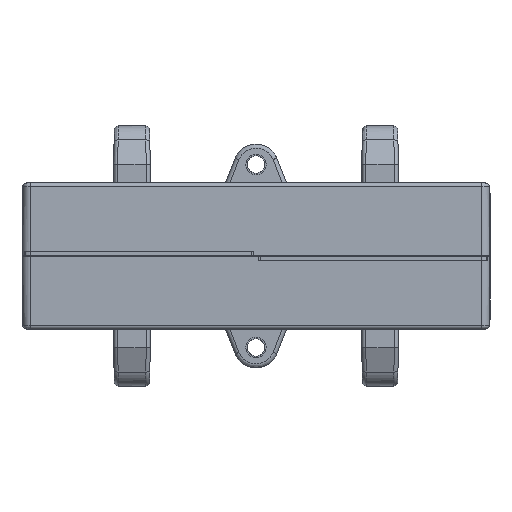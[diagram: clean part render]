
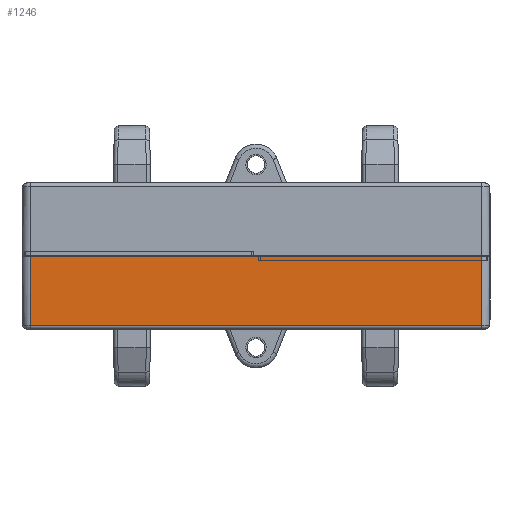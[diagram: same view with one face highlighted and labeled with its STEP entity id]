
A CAD part, front view. The second image highlights one B-rep face of the part: STEP entity #1246.
In plain terms, the highlighted planar face has unit normal (0, -1, -0.009).
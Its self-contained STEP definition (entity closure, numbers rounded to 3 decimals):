
#508=FACE_OUTER_BOUND('',#3193,.T.);
#1246=ADVANCED_FACE('',(#508),#2068,.T.);
#2068=PLANE('',#15098);
#3193=EDGE_LOOP('',(#8199,#8200,#8201,#8202));
#4420=LINE('',#21088,#5974);
#4500=LINE('',#21285,#6054);
#4501=LINE('',#21287,#6055);
#4502=LINE('',#21289,#6056);
#5974=VECTOR('',#16887,1.);
#6054=VECTOR('',#17049,1.);
#6055=VECTOR('',#17052,1.);
#6056=VECTOR('',#17053,1.);
#8199=ORIENTED_EDGE('',*,*,#13135,.T.);
#8200=ORIENTED_EDGE('',*,*,#13136,.F.);
#8201=ORIENTED_EDGE('',*,*,#13041,.T.);
#8202=ORIENTED_EDGE('',*,*,#13134,.F.);
#11595=VERTEX_POINT('',#21089);
#11596=VERTEX_POINT('',#21090);
#11658=VERTEX_POINT('',#21284);
#11659=VERTEX_POINT('',#21288);
#13041=EDGE_CURVE('',#11595,#11596,#4420,.T.);
#13134=EDGE_CURVE('',#11658,#11596,#4500,.T.);
#13135=EDGE_CURVE('',#11658,#11659,#4501,.T.);
#13136=EDGE_CURVE('',#11595,#11659,#4502,.T.);
#15098=AXIS2_PLACEMENT_3D('',#21290,#17054,#17055);
#16887=DIRECTION('',(-1.,0.,0.));
#17049=DIRECTION('',(-0.009,-0.009,1.));
#17052=DIRECTION('',(1.,0.,0.));
#17053=DIRECTION('',(-0.009,0.009,-1.));
#17054=DIRECTION('',(0.,-1.,-0.009));
#17055=DIRECTION('',(0.,-0.009,1.));
#21088=CARTESIAN_POINT('',(55.5,-110.,0.));
#21089=CARTESIAN_POINT('',(55.5,-110.,0.));
#21090=CARTESIAN_POINT('',(-55.5,-110.,0.));
#21284=CARTESIAN_POINT('',(-55.352,-109.852,-17.009));
#21285=CARTESIAN_POINT('',(-55.5,-110.,0.));
#21287=CARTESIAN_POINT('',(55.343,-109.852,-17.009));
#21288=CARTESIAN_POINT('',(55.352,-109.852,-17.009));
#21289=CARTESIAN_POINT('',(55.5,-110.,0.));
#21290=CARTESIAN_POINT('',(55.5,-110.,0.));
